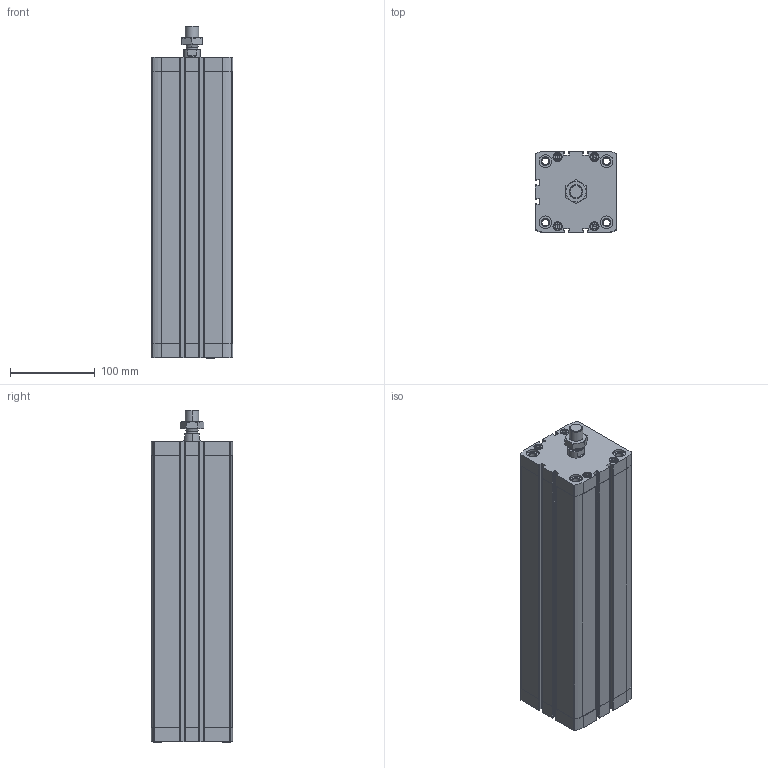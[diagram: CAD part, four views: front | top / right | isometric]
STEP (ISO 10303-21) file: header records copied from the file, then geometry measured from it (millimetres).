
FILE_DESCRIPTION (( 'STEP AP203' ), '1' );
FILE_NAME ('CCN80-300M.STEP', '2017-04-06T12:00:21', ( '' ), ( '' ), 'SwSTEP 2.0', 'SolidWorks 2016', '' );
FILE_SCHEMA (( 'CONFIG_CONTROL_DESIGN' ));
Length unit declared in the file: millimetre
Products named in the file (4): _DIN-439-B - M16x1.5(F); CCN80-300M; CCN-300----(Z); CCN-300_(KS)
Assembly tree (3 placements, depth 2):
  CCN80-300M
    CCN-300----(Z)
    CCN-300_(KS)
    _DIN-439-B - M16x1.5(F)
Bounding box: 95.5 x 95.5 x 390.9 mm (x, y, z)
Volume: 1619802.4 mm3; surface area: 346293.5 mm2
Topology: 3 solids, 3 shells, 507 faces, 1276 edges, 806 vertices
Faces by surface type: plane 235, cylinder 188, cone 80, bspline 4
Entity records: 16066 total; most frequent: CARTESIAN_POINT 3291, DIRECTION 2700, ORIENTED_EDGE 2520, EDGE_CURVE 1260, AXIS2_PLACEMENT_3D 1011, VERTEX_POINT 806, VECTOR 678, LINE 678
